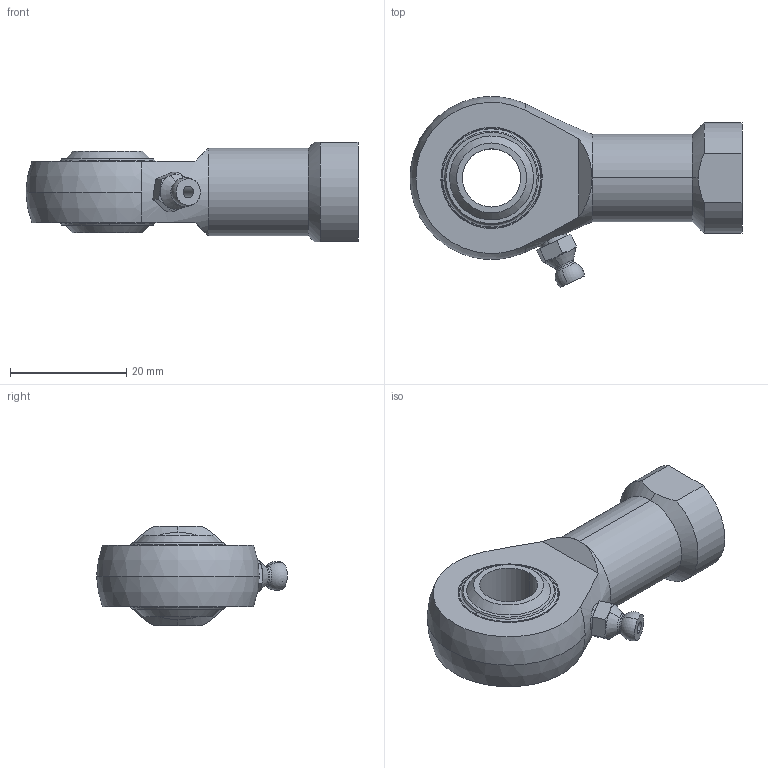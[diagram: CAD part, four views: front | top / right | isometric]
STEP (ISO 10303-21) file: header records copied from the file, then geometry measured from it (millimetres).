
FILE_DESCRIPTION (( 'STEP AP203' ), '1' );
FILE_NAME ('65760.W0210.step', '2014-02-11T16:38:46', ( 'User' ), ( '' ), 'SwSTEP 2.0', 'SolidWorks 2009', '' );
FILE_SCHEMA (( 'CONFIG_CONTROL_DESIGN' ));
Length unit declared in the file: millimetre
Products named in the file (5): 65760.W0210; Part2_65760.W0210; Part3_M5; Part4_65760.W0210; Part1_65760.W0210
Assembly tree (5 placements, depth 2):
  65760.W0210
    Part4_65760.W0210  x2
    Part1_65760.W0210
    Part2_65760.W0210
    Part3_M5
Bounding box: 57 x 32.74 x 17 mm (x, y, z)
Volume: 9772.9 mm3; surface area: 7752.4 mm2
Topology: 46 solids, 46 shells, 183 faces, 524 edges, 353 vertices
Faces by surface type: sphere 98, plane 27, torus 22, cylinder 20, cone 16
Entity records: 4793 total; most frequent: CARTESIAN_POINT 887, DIRECTION 814, ORIENTED_EDGE 558, AXIS2_PLACEMENT_3D 385, EDGE_CURVE 279, VERTEX_POINT 208, CIRCLE 207, EDGE_LOOP 189
